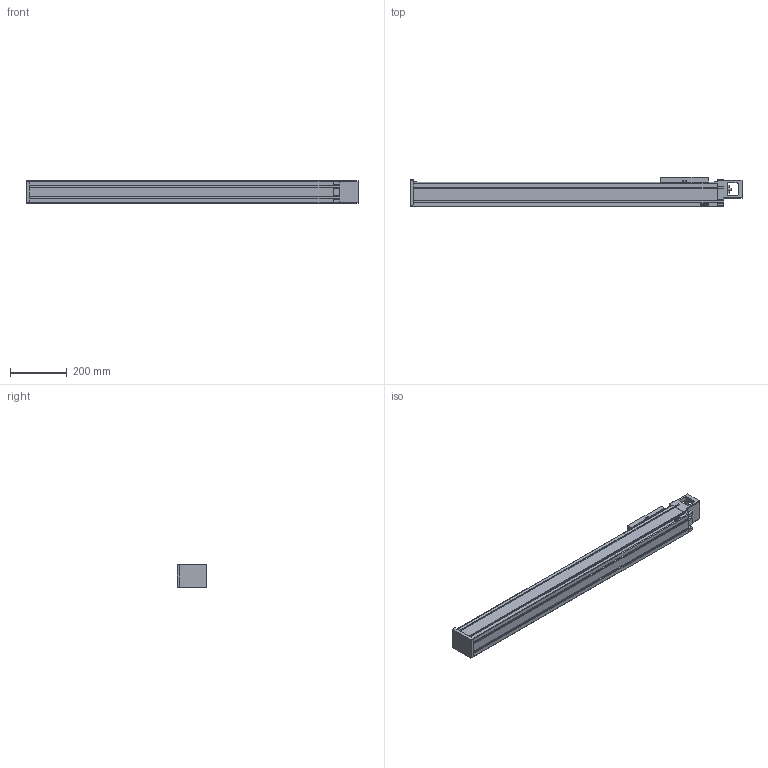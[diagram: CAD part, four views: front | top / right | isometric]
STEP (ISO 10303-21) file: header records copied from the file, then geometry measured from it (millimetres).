
FILE_DESCRIPTION(/* description */ (''),/* implementation_level */ '2;1');
FILE_NAME(/* name */ 'D:\混合母檔20191031\混和母檔\混和母檔\bin\Debug\Download\3D\KU80-20C-850AF0\KU80-20C-850AF0.stp',/* time_stamp */ '2019-11-04T17:27:45+08:00',/* author */ ('user'),/* organization */ (''),/* preprocessor_version */ 'ST-DEVELOPER v16.13',/* originating_system */ 'Autodesk Inventor 2018',/* authorisation */ '');
FILE_SCHEMA (('AUTOMOTIVE_DESIGN { 1 0 10303 214 3 1 1 }'));
Length unit declared in the file: millimetre
Products named in the file (3): KU80-20C-850AF0; KU80-F0-BP; KU80-SL
Assembly tree (2 placements, depth 2):
  KU80-20C-850AF0
    KU80-F0-BP
    KU80-SL
Bounding box: 1170 x 103 x 80 mm (x, y, z)
Volume: 7369278.3 mm3; surface area: 625316.6 mm2
Topology: 2 solids, 10 shells, 862 faces, 2315 edges, 1508 vertices
Faces by surface type: plane 509, bspline 136, cylinder 104, cone 81, torus 28, sphere 4
Full cylindrical faces by diameter (mm): 2.459 x4, 2.729 x4, 3 x4, 3.242 x4, 3.5 x4, 4.134 x16, 5 x4, 5.5 x8, 5.6 x2, 8 x1, 8.5 x4, 12 x1, 46.5 x1
Entity records: 27990 total; most frequent: CARTESIAN_POINT 7413, ORIENTED_EDGE 4362, DIRECTION 3790, EDGE_CURVE 2181, VERTEX_POINT 1469, LINE 1298, VECTOR 1298, AXIS2_PLACEMENT_3D 1246
